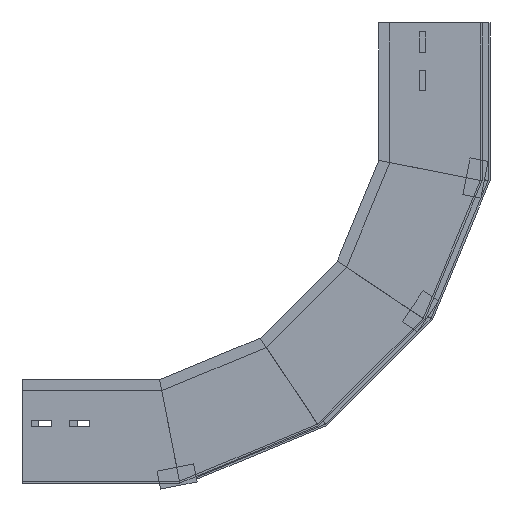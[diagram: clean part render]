
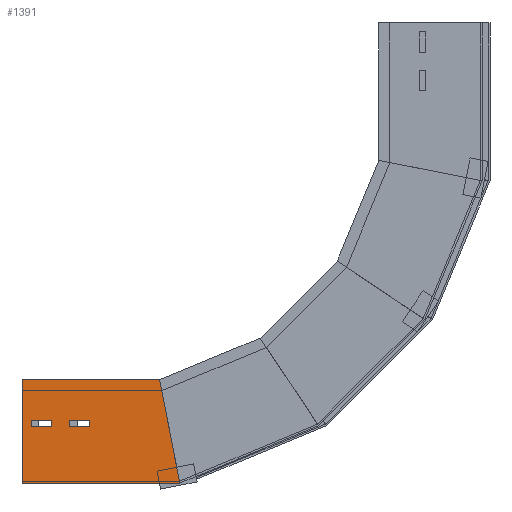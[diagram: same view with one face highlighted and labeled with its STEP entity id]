
A CAD part, left-side view. The second image highlights one B-rep face of the part: STEP entity #1391.
In plain terms, the highlighted planar face has unit normal (-1, 0, 0) as drawn and (1, 0, 0) by its records, which use the part's own axes.
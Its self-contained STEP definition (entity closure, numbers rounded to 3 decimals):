
#14 = CARTESIAN_POINT ( 'NONE',  ( 0., 68.5, -9.835 ) ) ;
#15 = ORIENTED_EDGE ( 'NONE', *, *, #1572, .T. ) ;
#34 = FACE_OUTER_BOUND ( 'NONE', #770, .T. ) ;
#43 = VECTOR ( 'NONE', #427, 1000. ) ;
#50 = CARTESIAN_POINT ( 'NONE',  ( 0., 61.5, -9.835 ) ) ;
#106 = ORIENTED_EDGE ( 'NONE', *, *, #358, .T. ) ;
#122 = CARTESIAN_POINT ( 'NONE',  ( 0., 68.5, -51.505 ) ) ;
#142 = ORIENTED_EDGE ( 'NONE', *, *, #890, .F. ) ;
#197 = CARTESIAN_POINT ( 'NONE',  ( 0., 68.5, -73.505 ) ) ;
#229 = VECTOR ( 'NONE', #1366, 1000. ) ;
#238 = VERTEX_POINT ( 'NONE', #1214 ) ;
#240 = EDGE_CURVE ( 'NONE', #1433, #1142, #786, .T. ) ;
#246 = LINE ( 'NONE', #1263, #589 ) ;
#255 = DIRECTION ( 'NONE',  ( 0., -1., 0. ) ) ;
#266 = VERTEX_POINT ( 'NONE', #1277 ) ;
#297 = DIRECTION ( 'NONE',  ( 0., 0., 1. ) ) ;
#302 = LINE ( 'NONE', #14, #1046 ) ;
#345 = CARTESIAN_POINT ( 'NONE',  ( 0., 112.5, 0. ) ) ;
#348 = CARTESIAN_POINT ( 'NONE',  ( 0., 61.5, -51.505 ) ) ;
#358 = EDGE_CURVE ( 'NONE', #622, #1666, #849, .T. ) ;
#361 = CARTESIAN_POINT ( 'NONE',  ( 0., 61.5, -51.505 ) ) ;
#378 = VERTEX_POINT ( 'NONE', #702 ) ;
#380 = VECTOR ( 'NONE', #255, 1000. ) ;
#383 = ORIENTED_EDGE ( 'NONE', *, *, #1601, .T. ) ;
#419 = LINE ( 'NONE', #1564, #380 ) ;
#427 = DIRECTION ( 'NONE',  ( 0., -0.981, -0.195 ) ) ;
#432 = ORIENTED_EDGE ( 'NONE', *, *, #685, .T. ) ;
#435 = VERTEX_POINT ( 'NONE', #1031 ) ;
#441 = CARTESIAN_POINT ( 'NONE',  ( 0., 0., 0. ) ) ;
#471 = ORIENTED_EDGE ( 'NONE', *, *, #1238, .T. ) ;
#490 = DIRECTION ( 'NONE',  ( 0., 0., -1. ) ) ;
#564 = DIRECTION ( 'NONE',  ( 0., 1., 0. ) ) ;
#589 = VECTOR ( 'NONE', #1225, 1000. ) ;
#622 = VERTEX_POINT ( 'NONE', #50 ) ;
#634 = FACE_BOUND ( 'NONE', #1674, .T. ) ;
#668 = ORIENTED_EDGE ( 'NONE', *, *, #1800, .F. ) ;
#685 = EDGE_CURVE ( 'NONE', #1142, #1002, #1653, .T. ) ;
#697 = LINE ( 'NONE', #122, #1811 ) ;
#702 = CARTESIAN_POINT ( 'NONE',  ( 0., 68.5, -51.505 ) ) ;
#717 = CARTESIAN_POINT ( 'NONE',  ( 0., 32.93, -165.55 ) ) ;
#729 = EDGE_CURVE ( 'NONE', #435, #238, #1794, .T. ) ;
#730 = LINE ( 'NONE', #1425, #1255 ) ;
#768 = FACE_BOUND ( 'NONE', #1710, .T. ) ;
#770 = EDGE_LOOP ( 'NONE', ( #142, #668, #1246, #1471 ) ) ;
#779 = LINE ( 'NONE', #441, #1107 ) ;
#786 = LINE ( 'NONE', #197, #229 ) ;
#788 = LINE ( 'NONE', #819, #900 ) ;
#819 = CARTESIAN_POINT ( 'NONE',  ( 0., 68.5, -51.505 ) ) ;
#835 = CARTESIAN_POINT ( 'NONE',  ( 0., 68.5, -9.835 ) ) ;
#849 = LINE ( 'NONE', #988, #1712 ) ;
#890 = EDGE_CURVE ( 'NONE', #266, #435, #1334, .T. ) ;
#900 = VECTOR ( 'NONE', #490, 1000. ) ;
#937 = DIRECTION ( 'NONE',  ( 0., 0., -1. ) ) ;
#988 = CARTESIAN_POINT ( 'NONE',  ( 0., 68.5, -9.835 ) ) ;
#1002 = VERTEX_POINT ( 'NONE', #361 ) ;
#1021 = CARTESIAN_POINT ( 'NONE',  ( 0., 0., 0. ) ) ;
#1031 = CARTESIAN_POINT ( 'NONE',  ( 0., 112.5, -149.722 ) ) ;
#1046 = VECTOR ( 'NONE', #937, 1000. ) ;
#1080 = VECTOR ( 'NONE', #1803, 1000. ) ;
#1107 = VECTOR ( 'NONE', #1606, 1000. ) ;
#1113 = DIRECTION ( 'NONE',  ( 0., 1., 0. ) ) ;
#1142 = VERTEX_POINT ( 'NONE', #1240 ) ;
#1176 = CARTESIAN_POINT ( 'NONE',  ( 0., 68.5, -73.505 ) ) ;
#1214 = CARTESIAN_POINT ( 'NONE',  ( 0., 0., -172.1 ) ) ;
#1216 = DIRECTION ( 'NONE',  ( 0., 0., 1. ) ) ;
#1225 = DIRECTION ( 'NONE',  ( 0., 0., -1. ) ) ;
#1238 = EDGE_CURVE ( 'NONE', #1875, #622, #730, .T. ) ;
#1240 = CARTESIAN_POINT ( 'NONE',  ( 0., 61.5, -73.505 ) ) ;
#1246 = ORIENTED_EDGE ( 'NONE', *, *, #1547, .T. ) ;
#1254 = VERTEX_POINT ( 'NONE', #1021 ) ;
#1255 = VECTOR ( 'NONE', #297, 1000. ) ;
#1263 = CARTESIAN_POINT ( 'NONE',  ( 0., 0., 0. ) ) ;
#1276 = CARTESIAN_POINT ( 'NONE',  ( 0., 68.5, -31.835 ) ) ;
#1277 = CARTESIAN_POINT ( 'NONE',  ( 0., 112.5, 0. ) ) ;
#1334 = LINE ( 'NONE', #345, #1809 ) ;
#1341 = DIRECTION ( 'NONE',  ( 0., 0., -1. ) ) ;
#1366 = DIRECTION ( 'NONE',  ( 0., -1., 0. ) ) ;
#1391 = ADVANCED_FACE ( 'NONE', ( #634, #34, #768 ), #1758, .F. ) ;
#1425 = CARTESIAN_POINT ( 'NONE',  ( 0., 61.5, -9.835 ) ) ;
#1433 = VERTEX_POINT ( 'NONE', #1176 ) ;
#1471 = ORIENTED_EDGE ( 'NONE', *, *, #729, .F. ) ;
#1501 = CARTESIAN_POINT ( 'NONE',  ( 0., 0., 0. ) ) ;
#1547 = EDGE_CURVE ( 'NONE', #1254, #238, #246, .T. ) ;
#1558 = ORIENTED_EDGE ( 'NONE', *, *, #1844, .T. ) ;
#1564 = CARTESIAN_POINT ( 'NONE',  ( 0., 68.5, -31.835 ) ) ;
#1572 = EDGE_CURVE ( 'NONE', #1002, #378, #697, .T. ) ;
#1588 = AXIS2_PLACEMENT_3D ( 'NONE', #1501, #1628, #1216 ) ;
#1601 = EDGE_CURVE ( 'NONE', #1840, #1875, #419, .T. ) ;
#1606 = DIRECTION ( 'NONE',  ( 0., 1., 0. ) ) ;
#1628 = DIRECTION ( 'NONE',  ( -1., 0., 0. ) ) ;
#1653 = LINE ( 'NONE', #348, #1080 ) ;
#1657 = CARTESIAN_POINT ( 'NONE',  ( 0., 61.5, -31.835 ) ) ;
#1666 = VERTEX_POINT ( 'NONE', #835 ) ;
#1674 = EDGE_LOOP ( 'NONE', ( #15, #1558, #1790, #432 ) ) ;
#1710 = EDGE_LOOP ( 'NONE', ( #106, #1797, #383, #471 ) ) ;
#1712 = VECTOR ( 'NONE', #1113, 1000. ) ;
#1758 = PLANE ( 'NONE',  #1588 ) ;
#1790 = ORIENTED_EDGE ( 'NONE', *, *, #240, .T. ) ;
#1794 = LINE ( 'NONE', #717, #43 ) ;
#1797 = ORIENTED_EDGE ( 'NONE', *, *, #1807, .T. ) ;
#1800 = EDGE_CURVE ( 'NONE', #1254, #266, #779, .T. ) ;
#1803 = DIRECTION ( 'NONE',  ( 0., 0., 1. ) ) ;
#1807 = EDGE_CURVE ( 'NONE', #1666, #1840, #302, .T. ) ;
#1809 = VECTOR ( 'NONE', #1341, 1000. ) ;
#1811 = VECTOR ( 'NONE', #564, 1000. ) ;
#1840 = VERTEX_POINT ( 'NONE', #1276 ) ;
#1844 = EDGE_CURVE ( 'NONE', #378, #1433, #788, .T. ) ;
#1875 = VERTEX_POINT ( 'NONE', #1657 ) ;
